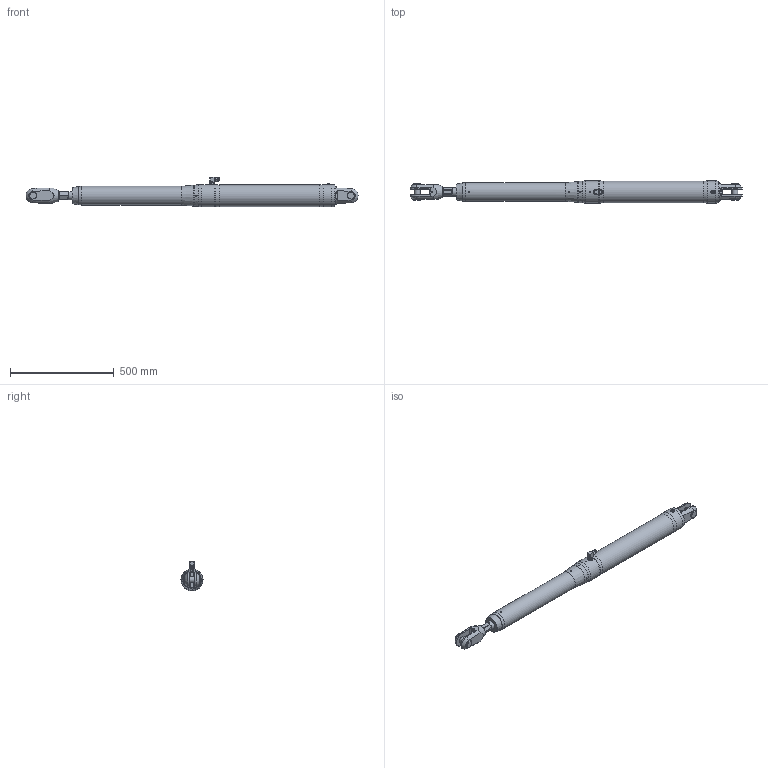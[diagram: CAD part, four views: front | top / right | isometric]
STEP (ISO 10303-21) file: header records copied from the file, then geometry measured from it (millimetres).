
FILE_DESCRIPTION(/* description */ (''),/* implementation_level */ '2;1');
FILE_NAME(/* name */ 'Q:\AA BRAND HYDRAULICS\HYDRAULICS FAMILY DIRECTORY\HYDRAULICS\CYLINDERS\MECHANICAL LOCK RAMS\ALUMINIUM - STAINLESS SINGLE ACTING (-0012 To -0150)\MSA-0048-S0475-NP-71\MSA-0048-S0475-NP-71 (Closed).stp',/* time_stamp */ '2018-04-25T16:31:00+01:00',/* author */ ('Lorena'),/* organization */ (''),/* preprocessor_version */ 'ST-DEVELOPER v17',/* originating_system */ 'Autodesk Inventor 2018',/* authorisation */ '');
FILE_SCHEMA (('AUTOMOTIVE_DESIGN { 1 0 10303 214 3 1 1 }'));
Length unit declared in the file: millimetre
Products named in the file (1): MSA-0048-S0475-NP-71 (Closed)
Bounding box: 1598.37 x 107.2 x 142.75 mm (x, y, z)
Volume: 10484002.2 mm3; surface area: 514459.3 mm2
Topology: 2 solids, 4 shells, 493 faces, 1291 edges, 840 vertices
Faces by surface type: plane 279, cone 124, cylinder 76, torus 6, sphere 4, bspline 4
Full cylindrical faces by diameter (mm): 4 x1, 4.134 x1, 4.2 x3, 5 x2, 6 x4, 7 x1, 7.5 x1, 8.1 x1, 9 x1, 10 x2, 14 x1, 14.35 x1, 14.662 x1, 15 x2, 15.662 x1, 16 x2, 16.662 x2, 18 x2, 21.4 x3, 25 x1, 25.5 x1, 28.58 x2, 35.725 x2, 40 x2, 41 x2, 44 x1, 90 x1, 104.2 x1, 107.2 x4
Entity records: 16632 total; most frequent: CARTESIAN_POINT 4122, ORIENTED_EDGE 2564, DIRECTION 2497, EDGE_CURVE 1282, AXIS2_PLACEMENT_3D 960, VERTEX_POINT 841, LINE 577, VECTOR 577
